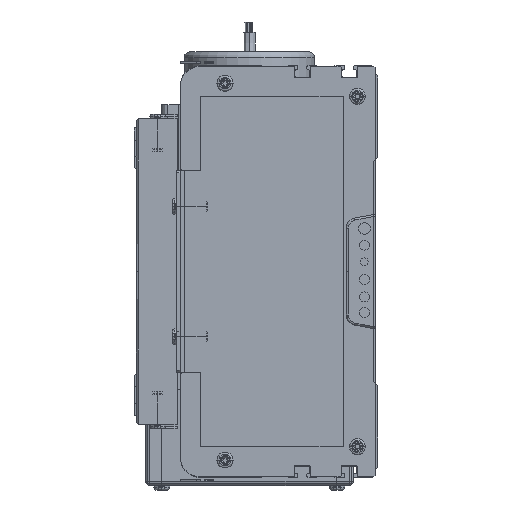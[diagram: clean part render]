
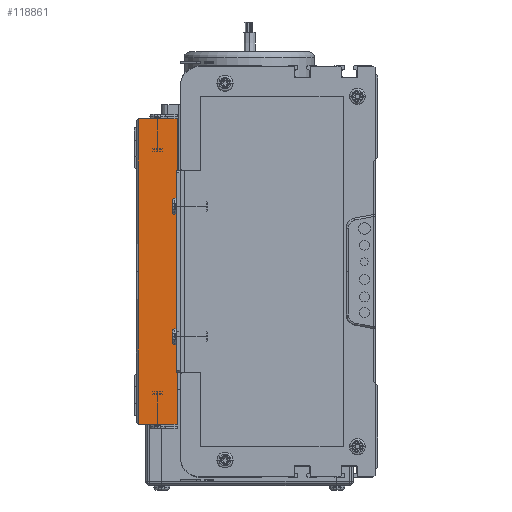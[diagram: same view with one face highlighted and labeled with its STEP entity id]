
A CAD part, left-side view. The second image highlights one B-rep face of the part: STEP entity #118861.
In plain terms, the highlighted planar face has unit normal (-1, 0, 0).
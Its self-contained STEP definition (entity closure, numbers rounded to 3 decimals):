
#17009 = EDGE_CURVE ( 'NONE', #17123, #17124, #105490, .T. ) ;
#17065 = EDGE_CURVE ( 'NONE', #118533, #17188, #105804, .T. ) ;
#17066 = ORIENTED_EDGE ( 'NONE', *, *, #17065, .T. ) ;
#17071 = ORIENTED_EDGE ( 'NONE', *, *, #17186, .T. ) ;
#17072 = EDGE_LOOP ( 'NONE', ( #118512, #17071, #17066, #17173, #17106 ) ) ;
#17078 = VERTEX_POINT ( 'NONE', #106127 ) ;
#17099 = EDGE_CURVE ( 'NONE', #17188, #17123, #106000, .T. ) ;
#17106 = ORIENTED_EDGE ( 'NONE', *, *, #17009, .T. ) ;
#17123 = VERTEX_POINT ( 'NONE', #106756 ) ;
#17124 = VERTEX_POINT ( 'NONE', #106514 ) ;
#17125 = EDGE_CURVE ( 'NONE', #17078, #17124, #106810, .T. ) ;
#17173 = ORIENTED_EDGE ( 'NONE', *, *, #17099, .T. ) ;
#17186 = EDGE_CURVE ( 'NONE', #17078, #118533, #106869, .T. ) ;
#17188 = VERTEX_POINT ( 'NONE', #106397 ) ;
#105490 = LINE ( 'NONE', #105624, #105621 ) ;
#105620 = DIRECTION ( 'NONE',  ( 0., 0., 1. ) ) ;
#105621 = VECTOR ( 'NONE', #105620, 1000. ) ;
#105624 = CARTESIAN_POINT ( 'NONE',  ( 0., 0., 0. ) ) ;
#105803 = CARTESIAN_POINT ( 'NONE',  ( 0., 19., 0. ) ) ;
#105804 = LINE ( 'NONE', #105803, #106377 ) ;
#105819 = DIRECTION ( 'NONE',  ( 0., -1., 0. ) ) ;
#105820 = VECTOR ( 'NONE', #105819, 1000. ) ;
#105999 = CARTESIAN_POINT ( 'NONE',  ( 0., 20., -75. ) ) ;
#106000 = LINE ( 'NONE', #105999, #105820 ) ;
#106034 = DIRECTION ( 'NONE',  ( 0., 0., -1. ) ) ;
#106127 = CARTESIAN_POINT ( 'NONE',  ( 0., 19., 75. ) ) ;
#106377 = VECTOR ( 'NONE', #106034, 1000. ) ;
#106397 = CARTESIAN_POINT ( 'NONE',  ( 0., 19., -75. ) ) ;
#106514 = CARTESIAN_POINT ( 'NONE',  ( 0., 0., 75. ) ) ;
#106707 = VECTOR ( 'NONE', #106781, 1000. ) ;
#106708 = CARTESIAN_POINT ( 'NONE',  ( 0., 20., 75. ) ) ;
#106756 = CARTESIAN_POINT ( 'NONE',  ( 0., 0., -75. ) ) ;
#106781 = DIRECTION ( 'NONE',  ( 0., -1., 0. ) ) ;
#106810 = LINE ( 'NONE', #106708, #106707 ) ;
#106869 = LINE ( 'NONE', #106916, #106913 ) ;
#106912 = DIRECTION ( 'NONE',  ( 0., 0., -1. ) ) ;
#106913 = VECTOR ( 'NONE', #106912, 1000. ) ;
#106916 = CARTESIAN_POINT ( 'NONE',  ( 0., 19., 0. ) ) ;
#118512 = ORIENTED_EDGE ( 'NONE', *, *, #17125, .F. ) ;
#118533 = VERTEX_POINT ( 'NONE', #155582 ) ;
#118861 = ADVANCED_FACE ( 'NONE', ( #156016 ), #156198, .F. ) ;
#155582 = CARTESIAN_POINT ( 'NONE',  ( 0., 19., 0. ) ) ;
#155624 = DIRECTION ( 'NONE',  ( 0., 0., -1. ) ) ;
#155625 = DIRECTION ( 'NONE',  ( 1., 0., 0. ) ) ;
#156016 = FACE_OUTER_BOUND ( 'NONE', #17072, .T. ) ;
#156034 = CARTESIAN_POINT ( 'NONE',  ( 0., 20., 0. ) ) ;
#156101 = AXIS2_PLACEMENT_3D ( 'NONE', #156034, #155625, #155624 ) ;
#156198 = PLANE ( 'NONE',  #156101 ) ;
